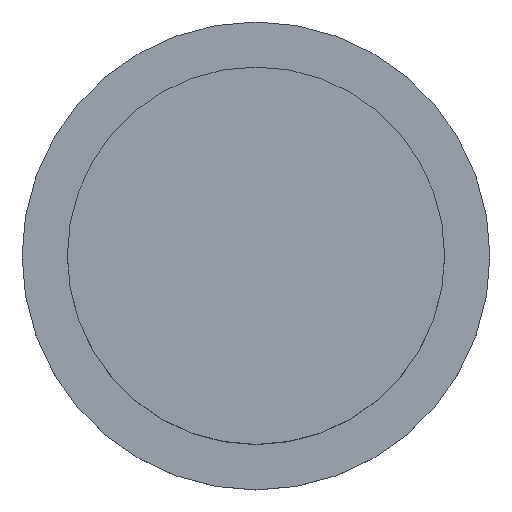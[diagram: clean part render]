
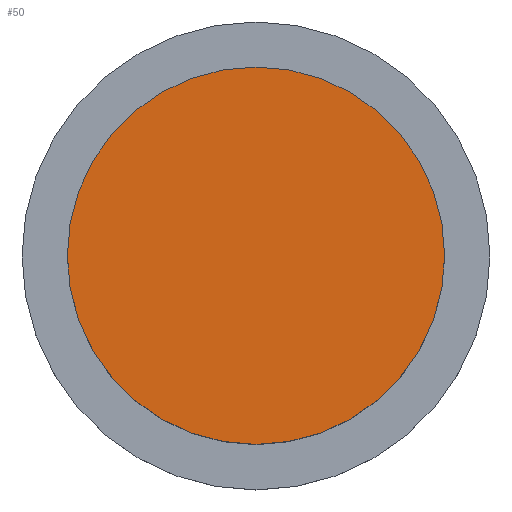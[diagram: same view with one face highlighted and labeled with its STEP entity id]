
A CAD part, top view. The second image highlights one B-rep face of the part: STEP entity #50.
In plain terms, the highlighted planar face has unit normal (0, 0, 1).
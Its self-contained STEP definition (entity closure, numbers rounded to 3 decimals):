
#21 = EDGE_CURVE('',#22,#22,#24,.T.);
#22 = VERTEX_POINT('',#23);
#23 = CARTESIAN_POINT('',(45.5,-25.,1.6));
#24 = CIRCLE('',#25,5.);
#25 = AXIS2_PLACEMENT_3D('',#26,#27,#28);
#26 = CARTESIAN_POINT('',(40.5,-25.,1.6));
#27 = DIRECTION('',(0.,0.,1.));
#28 = DIRECTION('',(1.,0.,0.));
#50 = ADVANCED_FACE('',(#51),#54,.T.);
#51 = FACE_BOUND('',#52,.T.);
#52 = EDGE_LOOP('',(#53));
#53 = ORIENTED_EDGE('',*,*,#21,.T.);
#54 = PLANE('',#55);
#55 = AXIS2_PLACEMENT_3D('',#56,#57,#58);
#56 = CARTESIAN_POINT('',(40.5,-25.,1.6));
#57 = DIRECTION('',(0.,0.,1.));
#58 = DIRECTION('',(1.,0.,0.));
